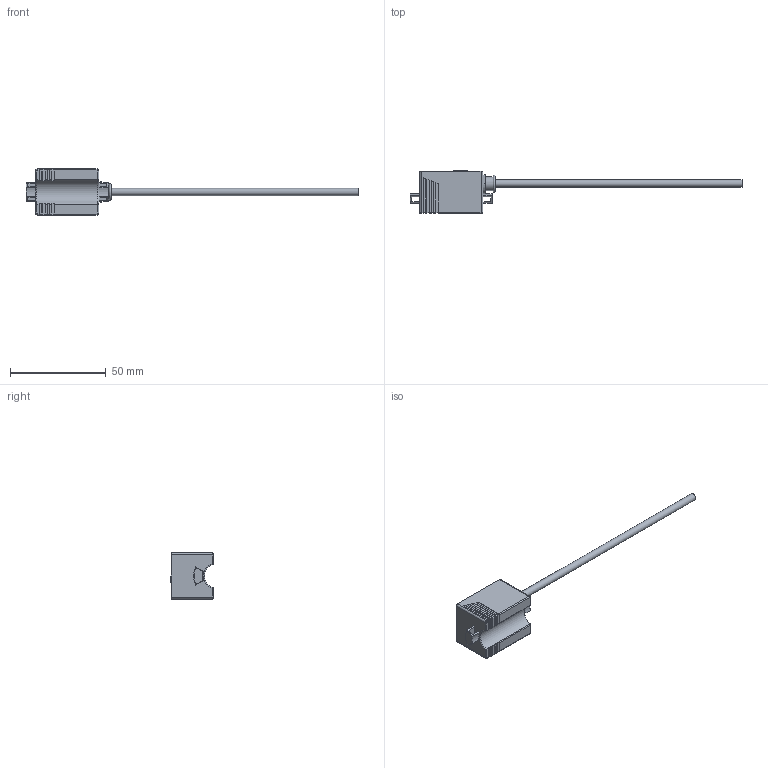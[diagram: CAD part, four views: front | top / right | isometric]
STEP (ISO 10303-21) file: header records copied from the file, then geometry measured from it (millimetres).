
FILE_DESCRIPTION(/* description */ (''),/* implementation_level */ '2;1');
FILE_NAME(/* name */ 'F:\HUAYIFENG\01)HUAYIFENG_宣传文件\HUAYIFENG_\X2\5BA34F2065874EF6\X0\_销售专用\HUAYIFENG_\X2\5BA34F2065874EF6\X0\_销售资料\05)产品销售资料_\X2\63A58FD17CFB5217\X0\\02)接近系列_3D\07)\X2\7BA190536DB24F4D\X0\\CS15.stp',/* time_stamp */ '2017-12-04T18:05:23+08:00',/* author */ ('fengjiarun'),/* organization */ (''),/* preprocessor_version */ 'ST-DEVELOPER v16.5',/* originating_system */ 'Autodesk Inventor 2017',/* authorisation */ '');
FILE_SCHEMA (('AUTOMOTIVE_DESIGN { 1 0 10303 214 3 1 1 }'));
Length unit declared in the file: millimetre
Products named in the file (1): 零件41
Bounding box: 173 x 22.2 x 24 mm (x, y, z)
Volume: 7069.8 mm3; surface area: 9684.5 mm2
Topology: 3 solids, 3 shells, 154 faces, 395 edges, 254 vertices
Faces by surface type: plane 96, cylinder 42, torus 8, bspline 4, sphere 4
Full cylindrical faces by diameter (mm): 1.9 x1, 2 x1, 3.8 x2, 4.9 x1, 5.1 x1, 7.2 x1
Entity records: 4724 total; most frequent: CARTESIAN_POINT 927, DIRECTION 792, ORIENTED_EDGE 768, EDGE_CURVE 384, AXIS2_PLACEMENT_3D 265, LINE 262, VECTOR 262, VERTEX_POINT 252
